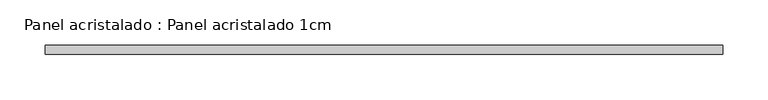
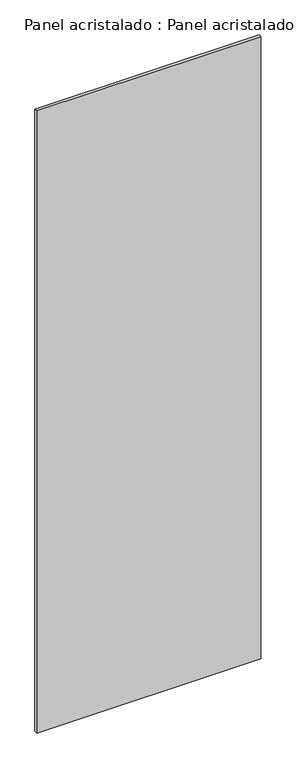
"""IFC4 building model written with IfcOpenShell, lengths in millimetres: plate geometry, Panel acristalado : Panel acristalado 1cm."""

from ifc_helpers import new_model, si_unit, origin, origin_with_axes, place, context, project, spatial, polyline, outline, extrude, source, transform, mapped, element, save


def panel_acristalado_panel_acristalado_1cm_47b5e9e2(model_context):
    return source(origin(), model_context, "Body", "SweptSolid", [
        extrude(outline(polyline([(374.9999983, 20.0), (-374.9999983, 20.0), (-374.9999983, 30.0), (374.9999983, 30.0), (374.9999983, 20.0)])), origin_with_axes(), (0.0, 0.0, 1.0), 2200.0),
    ])


if __name__ == "__main__":
    model = new_model("IFC4")
    model_context = context("Model", 3, world=origin())
    ifc_project = project(units=[si_unit("LENGTHUNIT", "METRE", prefix="MILLI")], contexts=[model_context])
    site = spatial("IfcSite", under=ifc_project)
    building = spatial("IfcBuilding", under=site)
    placement = place(None, origin())
    panel_acristalado_panel_acristalado_1cm_shape = panel_acristalado_panel_acristalado_1cm_47b5e9e2(model_context)
    element("IfcPlate", 1, ObjectType="Panel acristalado : Panel acristalado 1cm", at=placement, inside=building, context=model_context, shape_type="MappedRepresentation", body=[
        mapped(panel_acristalado_panel_acristalado_1cm_shape, transform((0.0, 0.0, 0.0), x_axis=(1.0, 0.0, 0.0), y_axis=(0.0, 1.0, 0.0), z_axis=(0.0, 0.0, 1.0))),
    ])
    save(model, "model.ifc")
